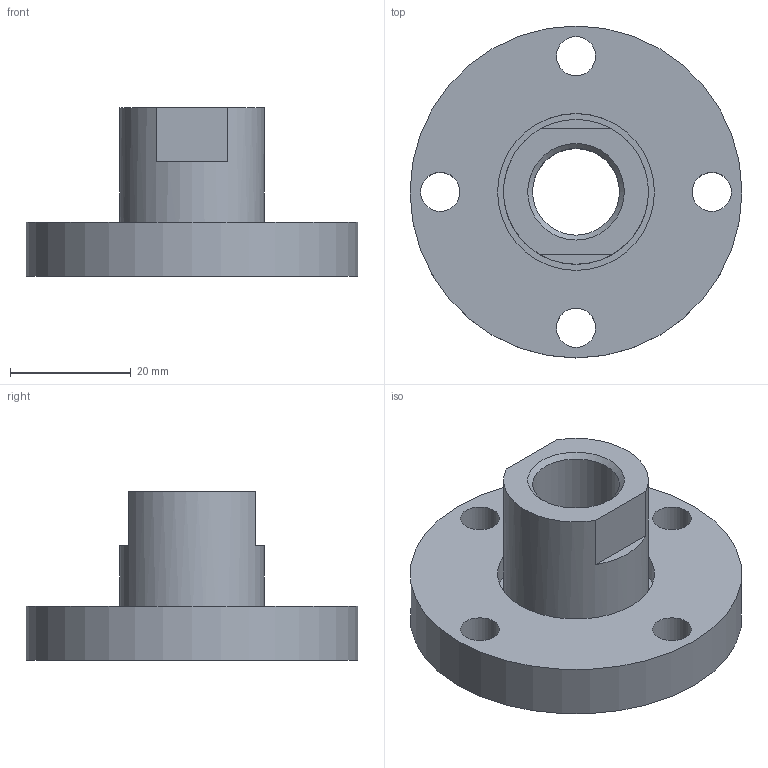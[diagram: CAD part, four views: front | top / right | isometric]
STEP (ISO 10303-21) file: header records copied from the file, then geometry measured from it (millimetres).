
FILE_DESCRIPTION( ( 'STEP AP214' ), '1' );
FILE_NAME( 'U:/Etudes/Top Solid/BIBLIO 3D AVM/TOP/PNEUMATIQUE/GUIDAGES/Accessoires/Accouplements/5133006.step', '2005-05-27T08:29:43', ( ' ' ), ( ' ' ), 'XStep 1.0', ' ', ' ' );
FILE_SCHEMA( ( 'automotive_design' ) );
Length unit declared in the file: metre
Products named in the file (1): 1
Bounding box: 55 x 55 x 28 mm (x, y, z)
Volume: 23686.3 mm3; surface area: 9747 mm2
Topology: 1 solids, 1 shells, 18 faces, 40 edges, 26 vertices
Faces by surface type: cylinder 9, plane 8, cone 1
Full cylindrical faces by diameter (mm): 6.5 x4, 14.376 x2, 24 x1, 26 x1, 55 x1
Entity records: 630 total; most frequent: DIRECTION 88, CARTESIAN_POINT 73, ORIENTED_EDGE 58, AXIS2_PLACEMENT_3D 40, EDGE_LOOP 40, EDGE_CURVE 29, FACE_OUTER_BOUND 27, VERTEX_POINT 25
